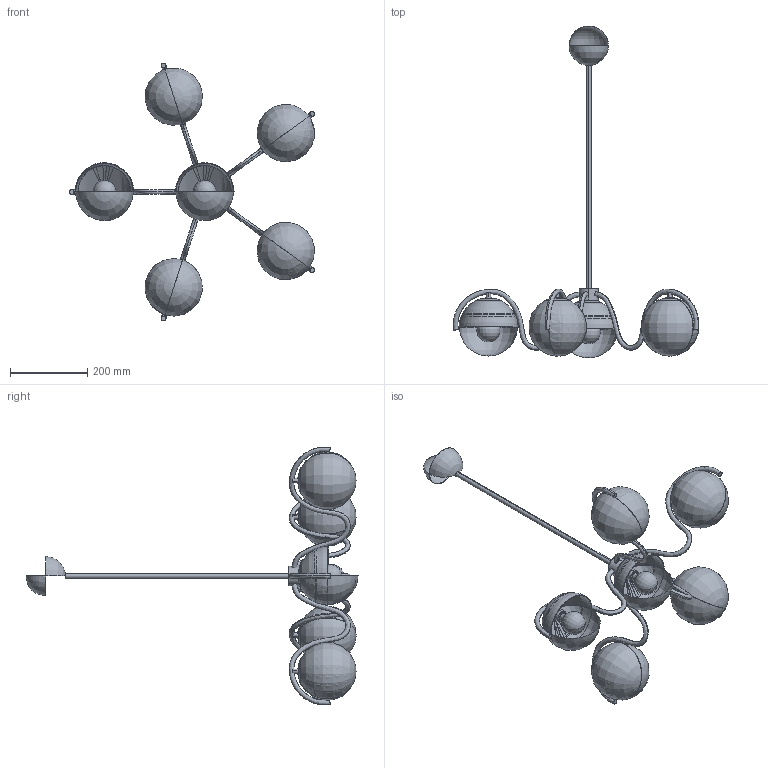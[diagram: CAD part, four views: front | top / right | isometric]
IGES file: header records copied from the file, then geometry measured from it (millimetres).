
Start section: SolidWorks IGES file using analytic representation for surfaces
Global section: file name: F:\燠隴矨\3D\2024-4堎\Reedway Curve Linear Chandelier.IGS; native system: SolidWorks 2022; preprocessor: SolidWorks 2022; author: MyPC; date: 240426.145213; units: millimetre
Bounding box: 634.37 x 857.57 x 666.24 mm (x, y, z)
Surface area: 1120104.3 mm2 (no closed solid volume)
Topology: 0 solids, 0 shells, 239 faces, 4268 edges, 4240 vertices
Faces by surface type: revolution 138, bspline 101
